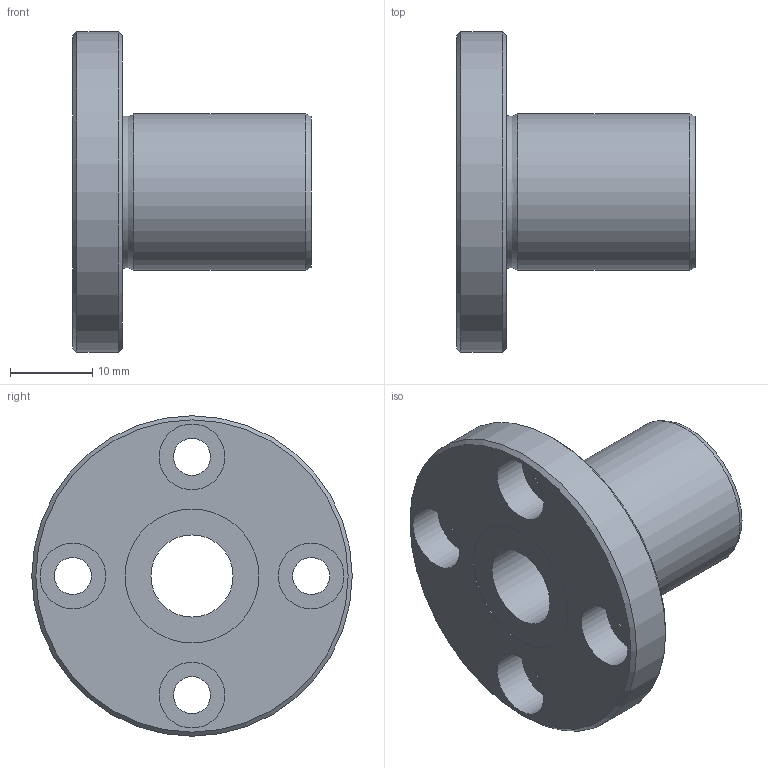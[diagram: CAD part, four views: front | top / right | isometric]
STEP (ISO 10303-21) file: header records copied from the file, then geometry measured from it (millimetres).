
FILE_DESCRIPTION((''),'2;1');
FILE_NAME('D:\製品 (図面)\カタログ用3D\リニアベアリング関連\STEP形式\LF\LF10.stp','2010-06-03T09:12:00',('Tsuchiya'),(''),'Autodesk Inventor 10','Autodesk Inventor 10','');
FILE_SCHEMA(('AUTOMOTIVE_DESIGN { 1 0 10303 214 1 1 1 1 }'));
Length unit declared in the file: millimetre
Products named in the file (1): LF10
Bounding box: 29 x 39 x 39 mm (x, y, z)
Volume: 10356.6 mm3; surface area: 5582.7 mm2
Topology: 1 solids, 1 shells, 26 faces, 47 edges, 30 vertices
Faces by surface type: cylinder 13, plane 9, cone 2, torus 1, bspline 1
Full cylindrical faces by diameter (mm): 4.5 x4, 8 x4, 10 x1, 16.3 x2, 19 x1, 39 x1
Entity records: 665 total; most frequent: CARTESIAN_POINT 149, DIRECTION 112, ORIENTED_EDGE 60, EDGE_LOOP 60, AXIS2_PLACEMENT_3D 56, FACE_BOUND 34, VERTEX_POINT 30, CIRCLE 30
